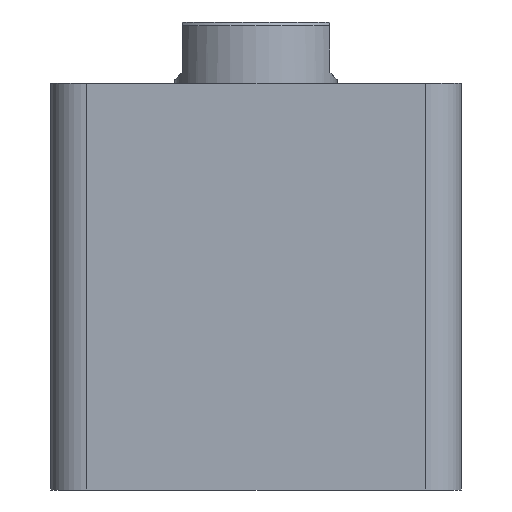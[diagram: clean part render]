
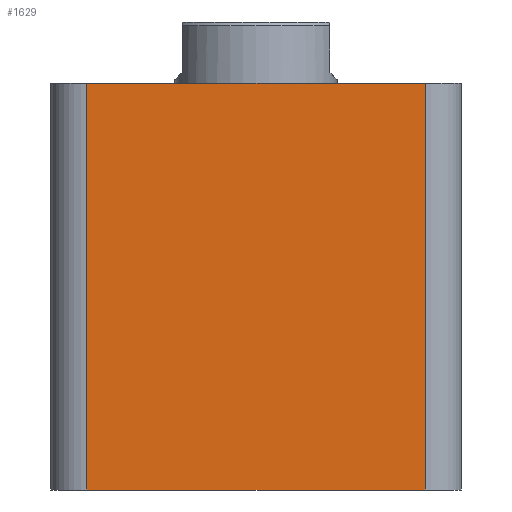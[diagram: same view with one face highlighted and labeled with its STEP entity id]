
A CAD part, front view. The second image highlights one B-rep face of the part: STEP entity #1629.
In plain terms, the highlighted planar face has unit normal (0, -1, 0).
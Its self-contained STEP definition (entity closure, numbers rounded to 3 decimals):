
#74 = CARTESIAN_POINT ( 'NONE',  ( 47., -57., 0. ) ) ;
#78 = CARTESIAN_POINT ( 'NONE',  ( -47., -57., 113. ) ) ;
#130 = CARTESIAN_POINT ( 'NONE',  ( 47., -57., 113. ) ) ;
#136 = CARTESIAN_POINT ( 'NONE',  ( -47., -57., 0. ) ) ;
#180 = VERTEX_POINT ( 'NONE', #136 ) ;
#186 = VERTEX_POINT ( 'NONE', #130 ) ;
#204 = ORIENTED_EDGE ( 'NONE', *, *, #1589, .T. ) ;
#205 = ORIENTED_EDGE ( 'NONE', *, *, #1590, .T. ) ;
#206 = ORIENTED_EDGE ( 'NONE', *, *, #1591, .F. ) ;
#207 = ORIENTED_EDGE ( 'NONE', *, *, #1592, .T. ) ;
#522 = EDGE_LOOP ( 'NONE', ( #204, #205, #206, #207 ) ) ;
#765 = AXIS2_PLACEMENT_3D ( 'NONE', #1895, #1903, #1904 ) ;
#1387 = VERTEX_POINT ( 'NONE', #78 ) ;
#1388 = VERTEX_POINT ( 'NONE', #74 ) ;
#1485 = VECTOR ( 'NONE', #1786, 1000. ) ;
#1487 = VECTOR ( 'NONE', #1784, 1000. ) ;
#1488 = LINE ( 'NONE', #1785, #1485 ) ;
#1489 = VECTOR ( 'NONE', #1782, 1000. ) ;
#1490 = LINE ( 'NONE', #1770, #1489 ) ;
#1491 = LINE ( 'NONE', #1783, #1487 ) ;
#1589 = EDGE_CURVE ( 'NONE', #180, #1388, #2626, .T. ) ;
#1590 = EDGE_CURVE ( 'NONE', #1388, #186, #1490, .T. ) ;
#1591 = EDGE_CURVE ( 'NONE', #1387, #186, #1491, .T. ) ;
#1592 = EDGE_CURVE ( 'NONE', #1387, #180, #1488, .T. ) ;
#1629 = ADVANCED_FACE ( 'NONE', ( #2368 ), #1902, .F. ) ;
#1770 = CARTESIAN_POINT ( 'NONE',  ( 47., -57., 113. ) ) ;
#1780 = CARTESIAN_POINT ( 'NONE',  ( -57., -57., 0. ) ) ;
#1781 = DIRECTION ( 'NONE',  ( 1., 0., 0. ) ) ;
#1782 = DIRECTION ( 'NONE',  ( 0., 0., 1. ) ) ;
#1783 = CARTESIAN_POINT ( 'NONE',  ( -57., -57., 113. ) ) ;
#1784 = DIRECTION ( 'NONE',  ( 1., 0., 0. ) ) ;
#1785 = CARTESIAN_POINT ( 'NONE',  ( -47., -57., 113. ) ) ;
#1786 = DIRECTION ( 'NONE',  ( 0., 0., -1. ) ) ;
#1895 = CARTESIAN_POINT ( 'NONE',  ( -57., -57., 113. ) ) ;
#1902 = PLANE ( 'NONE',  #765 ) ;
#1903 = DIRECTION ( 'NONE',  ( 0., 1., 0. ) ) ;
#1904 = DIRECTION ( 'NONE',  ( 0., 0., 1. ) ) ;
#2368 = FACE_OUTER_BOUND ( 'NONE', #522, .T. ) ;
#2625 = VECTOR ( 'NONE', #1781, 1000. ) ;
#2626 = LINE ( 'NONE', #1780, #2625 ) ;
